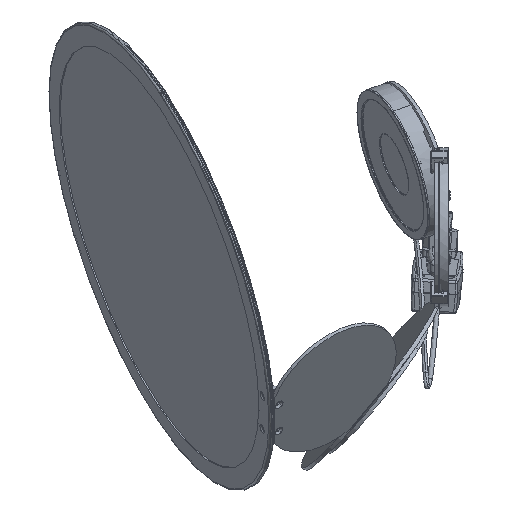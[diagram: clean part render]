
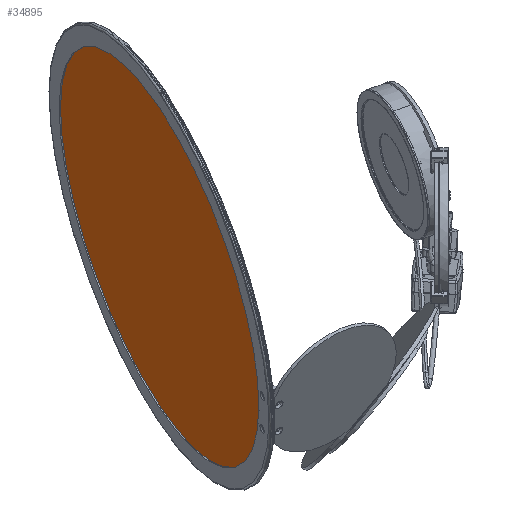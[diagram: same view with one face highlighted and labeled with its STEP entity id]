
A CAD part, left-side view. The second image highlights one B-rep face of the part: STEP entity #34895.
In plain terms, the highlighted planar face has unit normal (-0.299, 0.895, -0.331) as drawn and (0, 1, 0) by its records, which use the part's own axes.
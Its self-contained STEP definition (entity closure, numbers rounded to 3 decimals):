
#1538 = EDGE_CURVE ( 'NONE', #9547, #7035, #14935, .T. ) ;
#2635 = VERTEX_POINT ( 'NONE', #8206 ) ;
#4038 = ORIENTED_EDGE ( 'NONE', *, *, #12360, .T. ) ;
#4921 = CIRCLE ( 'NONE', #9726, 3.5 ) ;
#5208 = AXIS2_PLACEMENT_3D ( 'NONE', #11423, #25851, #20021 ) ;
#5636 = AXIS2_PLACEMENT_3D ( 'NONE', #20761, #22834, #29202 ) ;
#5827 = EDGE_LOOP ( 'NONE', ( #6712, #4038 ) ) ;
#5942 = EDGE_LOOP ( 'NONE', ( #28990, #8549 ) ) ;
#6317 = ORIENTED_EDGE ( 'NONE', *, *, #15683, .T. ) ;
#6712 = ORIENTED_EDGE ( 'NONE', *, *, #28046, .T. ) ;
#6760 = VERTEX_POINT ( 'NONE', #11195 ) ;
#7035 = VERTEX_POINT ( 'NONE', #16774 ) ;
#7280 = DIRECTION ( 'NONE',  ( 0., -1., 0. ) ) ;
#7739 = AXIS2_PLACEMENT_3D ( 'NONE', #27222, #15959, #24047 ) ;
#8206 = CARTESIAN_POINT ( 'NONE',  ( -232.5, 3., -21.5 ) ) ;
#8220 = FACE_OUTER_BOUND ( 'NONE', #5942, .T. ) ;
#8479 = VERTEX_POINT ( 'NONE', #36527 ) ;
#8549 = ORIENTED_EDGE ( 'NONE', *, *, #20388, .T. ) ;
#8782 = PLANE ( 'NONE',  #5208 ) ;
#8836 = ORIENTED_EDGE ( 'NONE', *, *, #1538, .T. ) ;
#9284 = CIRCLE ( 'NONE', #30251, 244. ) ;
#9547 = VERTEX_POINT ( 'NONE', #30145 ) ;
#9726 = AXIS2_PLACEMENT_3D ( 'NONE', #15522, #7280, #26969 ) ;
#11155 = DIRECTION ( 'NONE',  ( 0., -1., 0. ) ) ;
#11195 = CARTESIAN_POINT ( 'NONE',  ( -232.5, 3., -28.5 ) ) ;
#11423 = CARTESIAN_POINT ( 'NONE',  ( 0., 3., 0. ) ) ;
#12360 = EDGE_CURVE ( 'NONE', #6760, #2635, #25159, .T. ) ;
#14031 = FACE_BOUND ( 'NONE', #5827, .T. ) ;
#14935 = CIRCLE ( 'NONE', #29892, 3.5 ) ;
#15522 = CARTESIAN_POINT ( 'NONE',  ( -232.5, 3., 25. ) ) ;
#15683 = EDGE_CURVE ( 'NONE', #7035, #9547, #4921, .T. ) ;
#15959 = DIRECTION ( 'NONE',  ( 0., -1., 0. ) ) ;
#16774 = CARTESIAN_POINT ( 'NONE',  ( -232.5, 3., 21.5 ) ) ;
#18557 = DIRECTION ( 'NONE',  ( 0., -1., 0. ) ) ;
#18640 = EDGE_CURVE ( 'NONE', #8479, #34044, #27814, .T. ) ;
#20021 = DIRECTION ( 'NONE',  ( 1., 0., 0. ) ) ;
#20388 = EDGE_CURVE ( 'NONE', #34044, #8479, #9284, .T. ) ;
#20761 = CARTESIAN_POINT ( 'NONE',  ( 0., 3., 0. ) ) ;
#20959 = EDGE_LOOP ( 'NONE', ( #8836, #6317 ) ) ;
#21575 = CARTESIAN_POINT ( 'NONE',  ( -232.5, 3., -25. ) ) ;
#22593 = CARTESIAN_POINT ( 'NONE',  ( -232.5, 3., 25. ) ) ;
#22716 = CIRCLE ( 'NONE', #7739, 3.5 ) ;
#22834 = DIRECTION ( 'NONE',  ( 0., 1., 0. ) ) ;
#23033 = FACE_BOUND ( 'NONE', #20959, .T. ) ;
#24047 = DIRECTION ( 'NONE',  ( 0., 0., 1. ) ) ;
#25159 = CIRCLE ( 'NONE', #29363, 3.5 ) ;
#25851 = DIRECTION ( 'NONE',  ( 0., 1., 0. ) ) ;
#26969 = DIRECTION ( 'NONE',  ( 0., 0., 1. ) ) ;
#27222 = CARTESIAN_POINT ( 'NONE',  ( -232.5, 3., -25. ) ) ;
#27814 = CIRCLE ( 'NONE', #5636, 244. ) ;
#27829 = DIRECTION ( 'NONE',  ( 0., 1., 0. ) ) ;
#28046 = EDGE_CURVE ( 'NONE', #2635, #6760, #22716, .T. ) ;
#28990 = ORIENTED_EDGE ( 'NONE', *, *, #18640, .T. ) ;
#29202 = DIRECTION ( 'NONE',  ( 0., 0., 1. ) ) ;
#29363 = AXIS2_PLACEMENT_3D ( 'NONE', #21575, #18557, #30006 ) ;
#29892 = AXIS2_PLACEMENT_3D ( 'NONE', #22593, #11155, #34016 ) ;
#30006 = DIRECTION ( 'NONE',  ( 0., 0., 1. ) ) ;
#30145 = CARTESIAN_POINT ( 'NONE',  ( -232.5, 3., 28.5 ) ) ;
#30251 = AXIS2_PLACEMENT_3D ( 'NONE', #32528, #27829, #33631 ) ;
#32528 = CARTESIAN_POINT ( 'NONE',  ( 0., 3., 0. ) ) ;
#33631 = DIRECTION ( 'NONE',  ( 0., 0., 1. ) ) ;
#34016 = DIRECTION ( 'NONE',  ( 0., 0., 1. ) ) ;
#34044 = VERTEX_POINT ( 'NONE', #35372 ) ;
#34895 = ADVANCED_FACE ( 'NONE', ( #8220, #23033, #14031 ), #8782, .T. ) ;
#35372 = CARTESIAN_POINT ( 'NONE',  ( 0., 3., 244. ) ) ;
#36527 = CARTESIAN_POINT ( 'NONE',  ( 0., 3., -244. ) ) ;
